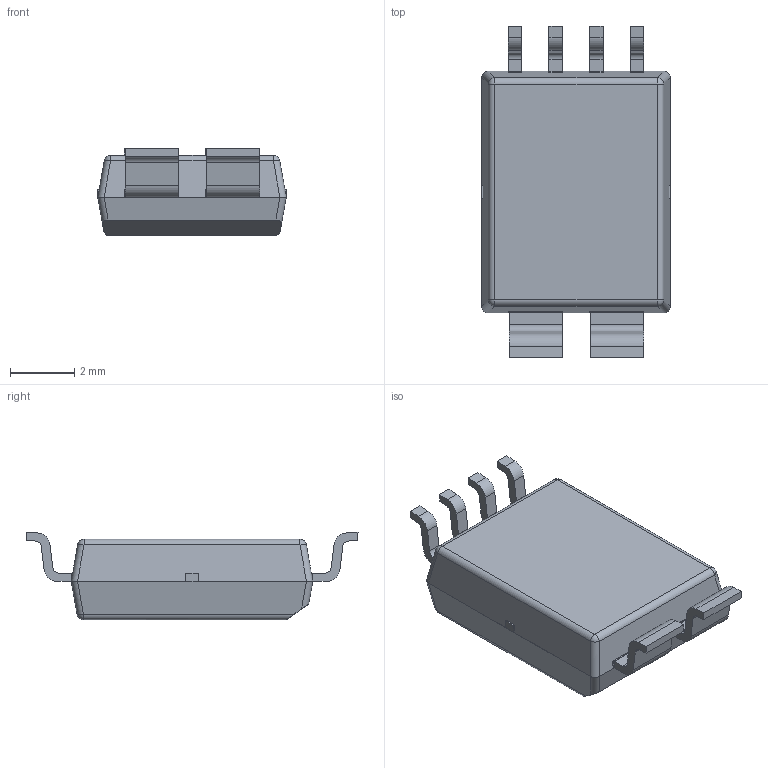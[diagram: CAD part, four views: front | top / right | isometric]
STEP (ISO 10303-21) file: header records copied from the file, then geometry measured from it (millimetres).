
FILE_DESCRIPTION (( 'STEP AP203' ), '1' );
FILE_NAME ('37030MY-6.STEP', '2024-08-16T20:24:22', ( '' ), ( '' ), 'SwSTEP 2.0', 'SolidWorks 2019', '' );
FILE_SCHEMA (( 'CONFIG_CONTROL_DESIGN' ));
Length unit declared in the file: millimetre
Products named in the file (17): Cu Pillar Round; Die with CuP; 37030MY-6; CuP; Bent Wide lead; Top Mold; LF 20231027; Tape_New; Circular SnAg Cap; Die; Bent lead; Bottom Mold
Assembly tree (30 placements, depth 4):
  37030MY-6
    LF 20231027
    Bottom Mold
    Top Mold
    Die with CuP
      Die
      CuP
        Cu Pillar Round
        Circular SnAg Cap
      CuP
        Cu Pillar Round
        Circular SnAg Cap
      CuP
        Cu Pillar Round
        Circular SnAg Cap
      CuP
        Cu Pillar Round
        Circular SnAg Cap
      CuP
        Cu Pillar Round
        Circular SnAg Cap
      CuP
        Cu Pillar Round
        Circular SnAg Cap
    Bent Wide lead  x2
    Bent lead  x4
    Tape_New
Bounding box: 5.85 x 10.31 x 2.72 mm (x, y, z)
Volume: 104.4 mm3; surface area: 374.3 mm2
Topology: 29 solids, 29 shells, 631 faces, 1618 edges, 1090 vertices
Faces by surface type: plane 324, cylinder 277, bspline 24, sphere 6
Entity records: 18989 total; most frequent: CARTESIAN_POINT 3121, DIRECTION 2966, ORIENTED_EDGE 2788, EDGE_CURVE 1394, AXIS2_PLACEMENT_3D 1047, VERTEX_POINT 944, LINE 872, VECTOR 872
